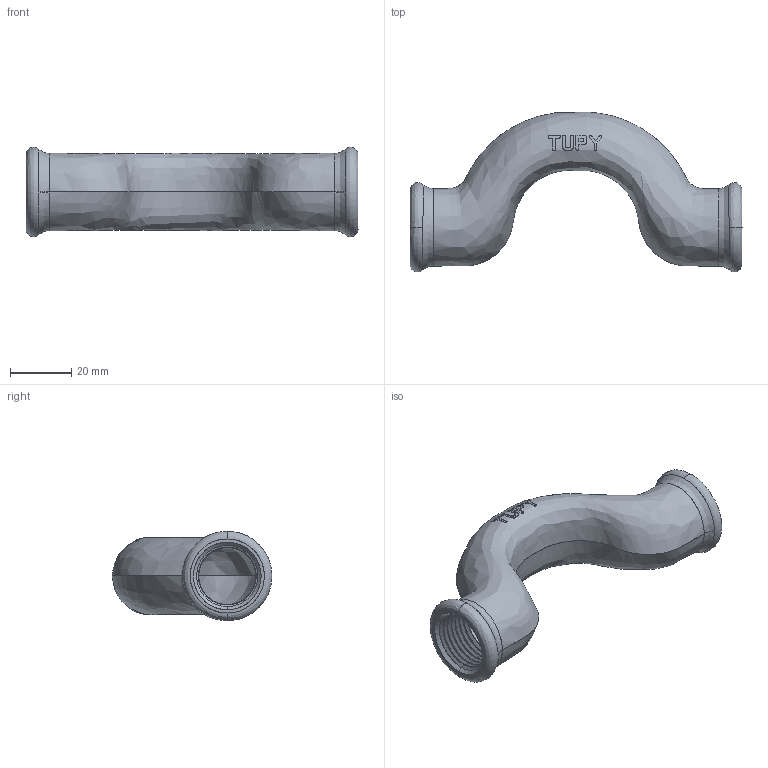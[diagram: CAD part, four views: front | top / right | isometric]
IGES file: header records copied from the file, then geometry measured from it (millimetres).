
Start section: SolidWorks IGES file using analytic representation for surfaces
Global section: file name: C:\Users\Joel Rosa\Desktop\Tubulação\12-28-XXX\12-28-078.IGS; native system: SolidWorks 2011; preprocessor: SolidWorks 2011; author: Joel Rosa; date: 121218.001953; units: millimetre
Bounding box: 108 x 52.04 x 29.08 mm (x, y, z)
Surface area: 19048 mm2 (no closed solid volume)
Topology: 0 solids, 0 shells, 258 faces, 2674 edges, 2674 vertices
Faces by surface type: bspline 198, revolution 60
